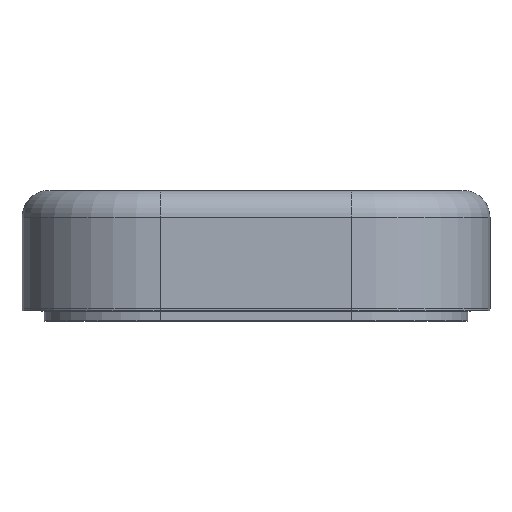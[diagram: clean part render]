
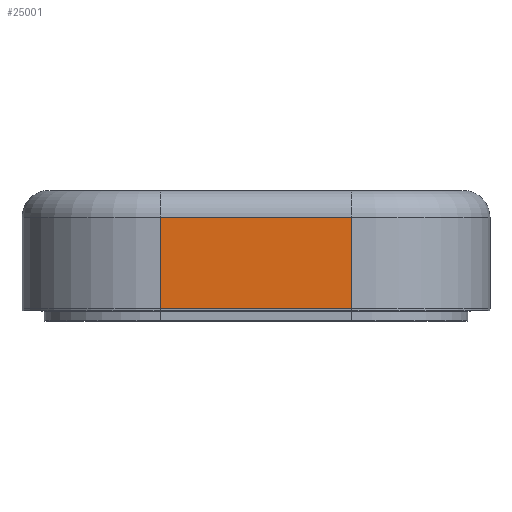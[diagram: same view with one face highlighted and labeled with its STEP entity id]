
A CAD part, front view. The second image highlights one B-rep face of the part: STEP entity #25001.
In plain terms, the highlighted planar face has unit normal (0, -1, 0).
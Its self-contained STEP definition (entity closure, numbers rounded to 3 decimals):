
#24161 = CYLINDRICAL_SURFACE('',#24162,26.);
#24162 = AXIS2_PLACEMENT_3D('',#24163,#24164,#24165);
#24163 = CARTESIAN_POINT('',(-18.,-42.,-13.6));
#24164 = DIRECTION('',(0.,0.,1.));
#24165 = DIRECTION('',(-1.,-0.,0.));
#24326 = VERTEX_POINT('',#24327);
#24327 = CARTESIAN_POINT('',(-18.,-68.,-8.6));
#24354 = EDGE_CURVE('',#24326,#24355,#24357,.T.);
#24355 = VERTEX_POINT('',#24356);
#24356 = CARTESIAN_POINT('',(-18.,-68.,8.6));
#24357 = SURFACE_CURVE('',#24358,(#24362,#24369),.PCURVE_S1.);
#24358 = LINE('',#24359,#24360);
#24359 = CARTESIAN_POINT('',(-18.,-68.,-13.6));
#24360 = VECTOR('',#24361,1.);
#24361 = DIRECTION('',(0.,0.,1.));
#24362 = PCURVE('',#24161,#24363);
#24363 = DEFINITIONAL_REPRESENTATION('',(#24364),#24368);
#24364 = LINE('',#24365,#24366);
#24365 = CARTESIAN_POINT('',(1.571,0.));
#24366 = VECTOR('',#24367,1.);
#24367 = DIRECTION('',(0.,1.));
#24368 = ( GEOMETRIC_REPRESENTATION_CONTEXT(2) 
PARAMETRIC_REPRESENTATION_CONTEXT() REPRESENTATION_CONTEXT('2D SPACE',''
  ) );
#24369 = PCURVE('',#24370,#24375);
#24370 = PLANE('',#24371);
#24371 = AXIS2_PLACEMENT_3D('',#24372,#24373,#24374);
#24372 = CARTESIAN_POINT('',(-44.,-68.,-13.6));
#24373 = DIRECTION('',(0.,1.,0.));
#24374 = DIRECTION('',(0.,-0.,1.));
#24375 = DEFINITIONAL_REPRESENTATION('',(#24376),#24380);
#24376 = LINE('',#24377,#24378);
#24377 = CARTESIAN_POINT('',(0.,26.));
#24378 = VECTOR('',#24379,1.);
#24379 = DIRECTION('',(1.,0.));
#24380 = ( GEOMETRIC_REPRESENTATION_CONTEXT(2) 
PARAMETRIC_REPRESENTATION_CONTEXT() REPRESENTATION_CONTEXT('2D SPACE',''
  ) );
#24905 = CYLINDRICAL_SURFACE('',#24906,5.);
#24906 = AXIS2_PLACEMENT_3D('',#24907,#24908,#24909);
#24907 = CARTESIAN_POINT('',(18.,-63.,-8.6));
#24908 = DIRECTION('',(-1.,-0.,-0.));
#24909 = DIRECTION('',(0.,-1.,0.));
#24991 = CYLINDRICAL_SURFACE('',#24992,5.);
#24992 = AXIS2_PLACEMENT_3D('',#24993,#24994,#24995);
#24993 = CARTESIAN_POINT('',(18.,-63.,8.6));
#24994 = DIRECTION('',(-1.,-0.,-0.));
#24995 = DIRECTION('',(0.,-1.,0.));
#25001 = ADVANCED_FACE('',(#25002),#24370,.F.);
#25002 = FACE_BOUND('',#25003,.F.);
#25003 = EDGE_LOOP('',(#25004,#25005,#25028,#25056));
#25004 = ORIENTED_EDGE('',*,*,#24354,.T.);
#25005 = ORIENTED_EDGE('',*,*,#25006,.F.);
#25006 = EDGE_CURVE('',#25007,#24355,#25009,.T.);
#25007 = VERTEX_POINT('',#25008);
#25008 = CARTESIAN_POINT('',(18.,-68.,8.6));
#25009 = SURFACE_CURVE('',#25010,(#25014,#25021),.PCURVE_S1.);
#25010 = LINE('',#25011,#25012);
#25011 = CARTESIAN_POINT('',(18.,-68.,8.6));
#25012 = VECTOR('',#25013,1.);
#25013 = DIRECTION('',(-1.,-0.,-0.));
#25014 = PCURVE('',#24370,#25015);
#25015 = DEFINITIONAL_REPRESENTATION('',(#25016),#25020);
#25016 = LINE('',#25017,#25018);
#25017 = CARTESIAN_POINT('',(22.2,62.));
#25018 = VECTOR('',#25019,1.);
#25019 = DIRECTION('',(0.,-1.));
#25020 = ( GEOMETRIC_REPRESENTATION_CONTEXT(2) 
PARAMETRIC_REPRESENTATION_CONTEXT() REPRESENTATION_CONTEXT('2D SPACE',''
  ) );
#25021 = PCURVE('',#24991,#25022);
#25022 = DEFINITIONAL_REPRESENTATION('',(#25023),#25027);
#25023 = LINE('',#25024,#25025);
#25024 = CARTESIAN_POINT('',(0.,0.));
#25025 = VECTOR('',#25026,1.);
#25026 = DIRECTION('',(0.,1.));
#25027 = ( GEOMETRIC_REPRESENTATION_CONTEXT(2) 
PARAMETRIC_REPRESENTATION_CONTEXT() REPRESENTATION_CONTEXT('2D SPACE',''
  ) );
#25028 = ORIENTED_EDGE('',*,*,#25029,.F.);
#25029 = EDGE_CURVE('',#25030,#25007,#25032,.T.);
#25030 = VERTEX_POINT('',#25031);
#25031 = CARTESIAN_POINT('',(18.,-68.,-8.6));
#25032 = SURFACE_CURVE('',#25033,(#25037,#25044),.PCURVE_S1.);
#25033 = LINE('',#25034,#25035);
#25034 = CARTESIAN_POINT('',(18.,-68.,-13.6));
#25035 = VECTOR('',#25036,1.);
#25036 = DIRECTION('',(0.,0.,1.));
#25037 = PCURVE('',#24370,#25038);
#25038 = DEFINITIONAL_REPRESENTATION('',(#25039),#25043);
#25039 = LINE('',#25040,#25041);
#25040 = CARTESIAN_POINT('',(0.,62.));
#25041 = VECTOR('',#25042,1.);
#25042 = DIRECTION('',(1.,0.));
#25043 = ( GEOMETRIC_REPRESENTATION_CONTEXT(2) 
PARAMETRIC_REPRESENTATION_CONTEXT() REPRESENTATION_CONTEXT('2D SPACE',''
  ) );
#25044 = PCURVE('',#25045,#25050);
#25045 = CYLINDRICAL_SURFACE('',#25046,26.);
#25046 = AXIS2_PLACEMENT_3D('',#25047,#25048,#25049);
#25047 = CARTESIAN_POINT('',(18.,-42.,-13.6));
#25048 = DIRECTION('',(0.,0.,1.));
#25049 = DIRECTION('',(1.,0.,-0.));
#25050 = DEFINITIONAL_REPRESENTATION('',(#25051),#25055);
#25051 = LINE('',#25052,#25053);
#25052 = CARTESIAN_POINT('',(4.712,0.));
#25053 = VECTOR('',#25054,1.);
#25054 = DIRECTION('',(-0.,1.));
#25055 = ( GEOMETRIC_REPRESENTATION_CONTEXT(2) 
PARAMETRIC_REPRESENTATION_CONTEXT() REPRESENTATION_CONTEXT('2D SPACE',''
  ) );
#25056 = ORIENTED_EDGE('',*,*,#25057,.T.);
#25057 = EDGE_CURVE('',#25030,#24326,#25058,.T.);
#25058 = SURFACE_CURVE('',#25059,(#25063,#25070),.PCURVE_S1.);
#25059 = LINE('',#25060,#25061);
#25060 = CARTESIAN_POINT('',(18.,-68.,-8.6));
#25061 = VECTOR('',#25062,1.);
#25062 = DIRECTION('',(-1.,-0.,-0.));
#25063 = PCURVE('',#24370,#25064);
#25064 = DEFINITIONAL_REPRESENTATION('',(#25065),#25069);
#25065 = LINE('',#25066,#25067);
#25066 = CARTESIAN_POINT('',(5.,62.));
#25067 = VECTOR('',#25068,1.);
#25068 = DIRECTION('',(0.,-1.));
#25069 = ( GEOMETRIC_REPRESENTATION_CONTEXT(2) 
PARAMETRIC_REPRESENTATION_CONTEXT() REPRESENTATION_CONTEXT('2D SPACE',''
  ) );
#25070 = PCURVE('',#24905,#25071);
#25071 = DEFINITIONAL_REPRESENTATION('',(#25072),#25076);
#25072 = LINE('',#25073,#25074);
#25073 = CARTESIAN_POINT('',(6.283,0.));
#25074 = VECTOR('',#25075,1.);
#25075 = DIRECTION('',(-0.,1.));
#25076 = ( GEOMETRIC_REPRESENTATION_CONTEXT(2) 
PARAMETRIC_REPRESENTATION_CONTEXT() REPRESENTATION_CONTEXT('2D SPACE',''
  ) );
